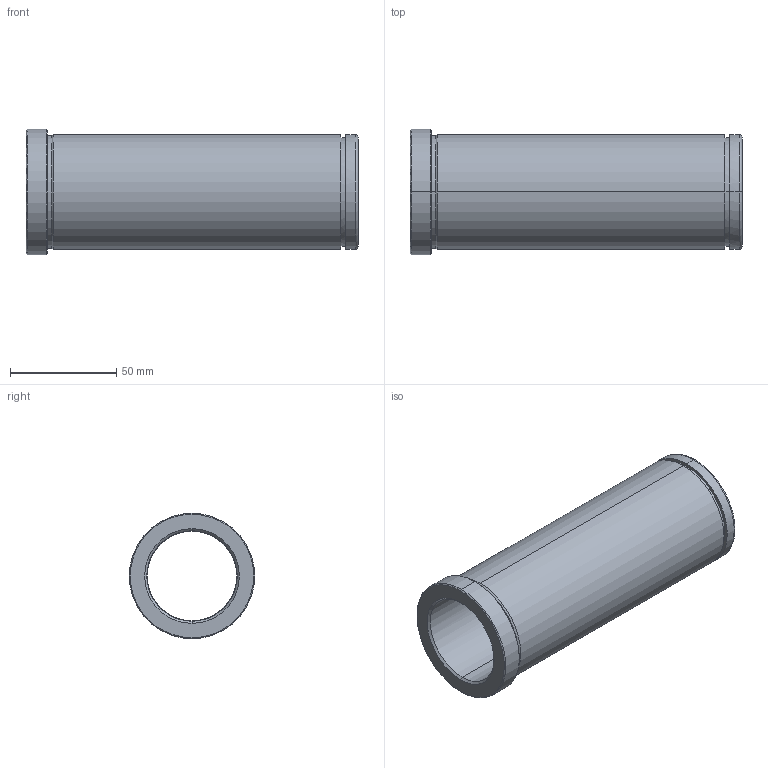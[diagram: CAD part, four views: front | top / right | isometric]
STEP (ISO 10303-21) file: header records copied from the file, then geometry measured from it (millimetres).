
FILE_DESCRIPTION(('CATIA V5 STEP Exchange'),'2;1');
FILE_NAME('C:\Users\Utente\Desktop\IO LAVORO\3D X SITO CF\X SITO\PLASTICA\553\553-42X156.stp','2021-06-08T17:45:16+00:00',('none'),('none'),'CATIA Version 5 Release 20 GA (IN-10)','CATIA V5 STEP AP203','none');
FILE_SCHEMA(('CONFIG_CONTROL_DESIGN'));
Length unit declared in the file: millimetre
Products named in the file (1): 553-42X156
Bounding box: 156 x 59 x 59 mm (x, y, z)
Volume: 143171.2 mm3; surface area: 50126 mm2
Topology: 1 solids, 1 shells, 32 faces, 102 edges, 76 vertices
Faces by surface type: cylinder 14, cone 8, plane 6, torus 4
Entity records: 1334 total; most frequent: CARTESIAN_POINT 389, ORIENTED_EDGE 204, DIRECTION 152, EDGE_CURVE 102, AXIS2_PLACEMENT_3D 99, VERTEX_POINT 76, CIRCLE 66, EDGE_LOOP 38
